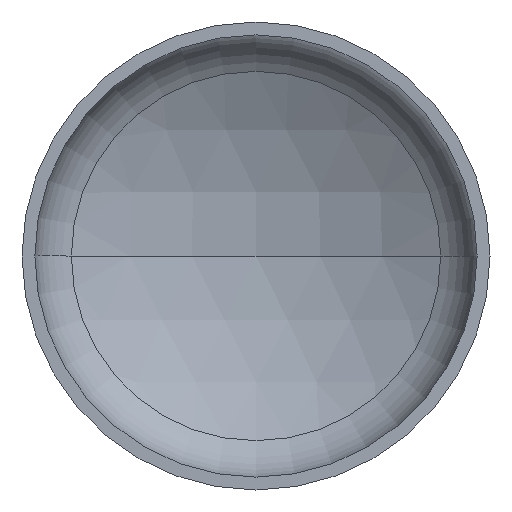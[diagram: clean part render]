
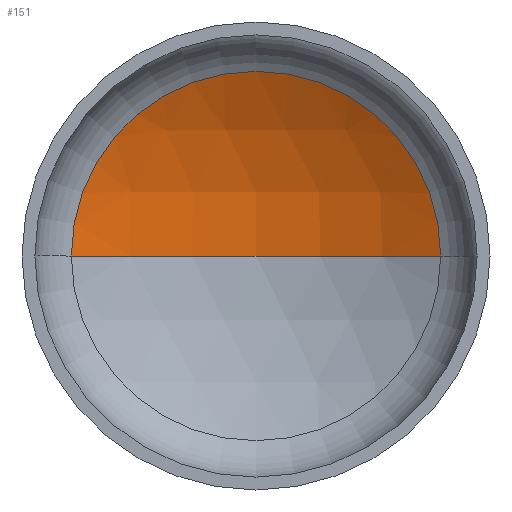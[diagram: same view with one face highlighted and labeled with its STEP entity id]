
A CAD part, front view. The second image highlights one B-rep face of the part: STEP entity #151.
In plain terms, the highlighted spherical face has radius 3200 mm.
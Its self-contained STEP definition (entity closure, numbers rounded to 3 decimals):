
#2 = AXIS2_PLACEMENT_3D ( 'NONE', #320, #100, #153 ) ;
#4 = AXIS2_PLACEMENT_3D ( 'NONE', #263, #364, #280 ) ;
#14 = EDGE_LOOP ( 'NONE', ( #42, #36, #121 ) ) ;
#24 = VERTEX_POINT ( 'NONE', #261 ) ;
#36 = ORIENTED_EDGE ( 'NONE', *, *, #349, .T. ) ;
#42 = ORIENTED_EDGE ( 'NONE', *, *, #351, .F. ) ;
#45 = AXIS2_PLACEMENT_3D ( 'NONE', #402, #368, #322 ) ;
#47 = AXIS2_PLACEMENT_3D ( 'NONE', #207, #226, #222 ) ;
#58 = VERTEX_POINT ( 'NONE', #257 ) ;
#100 = DIRECTION ( 'NONE',  ( 0., 0., 1. ) ) ;
#121 = ORIENTED_EDGE ( 'NONE', *, *, #154, .T. ) ;
#151 = ADVANCED_FACE ( 'NONE', ( #159 ), #277, .F. ) ;
#153 = DIRECTION ( 'NONE',  ( 1., 0., 0. ) ) ;
#154 = EDGE_CURVE ( 'NONE', #58, #367, #335, .T. ) ;
#158 = CARTESIAN_POINT ( 'NONE',  ( -1578.337, 609.988, 0. ) ) ;
#159 = FACE_OUTER_BOUND ( 'NONE', #14, .T. ) ;
#185 = CIRCLE ( 'NONE', #4, 3200. ) ;
#207 = CARTESIAN_POINT ( 'NONE',  ( 0., 609.988, 0. ) ) ;
#222 = DIRECTION ( 'NONE',  ( 1., 0., 0. ) ) ;
#226 = DIRECTION ( 'NONE',  ( 0., -1., 0. ) ) ;
#257 = CARTESIAN_POINT ( 'NONE',  ( 1578.337, 609.988, 0. ) ) ;
#261 = CARTESIAN_POINT ( 'NONE',  ( 0., 1026.311, 0. ) ) ;
#263 = CARTESIAN_POINT ( 'NONE',  ( 0., -2173.689, 0. ) ) ;
#277 = SPHERICAL_SURFACE ( 'NONE', #45, 3200. ) ;
#280 = DIRECTION ( 'NONE',  ( -1., 0., 0. ) ) ;
#320 = CARTESIAN_POINT ( 'NONE',  ( 0., -2173.689, 0. ) ) ;
#322 = DIRECTION ( 'NONE',  ( -1., 0., 0. ) ) ;
#335 = CIRCLE ( 'NONE', #47, 1578.337 ) ;
#349 = EDGE_CURVE ( 'NONE', #24, #58, #185, .T. ) ;
#351 = EDGE_CURVE ( 'NONE', #24, #367, #357, .T. ) ;
#357 = CIRCLE ( 'NONE', #2, 3200. ) ;
#364 = DIRECTION ( 'NONE',  ( 0., 0., -1. ) ) ;
#367 = VERTEX_POINT ( 'NONE', #158 ) ;
#368 = DIRECTION ( 'NONE',  ( 0., 0., -1. ) ) ;
#402 = CARTESIAN_POINT ( 'NONE',  ( 0., -2173.689, 0. ) ) ;
